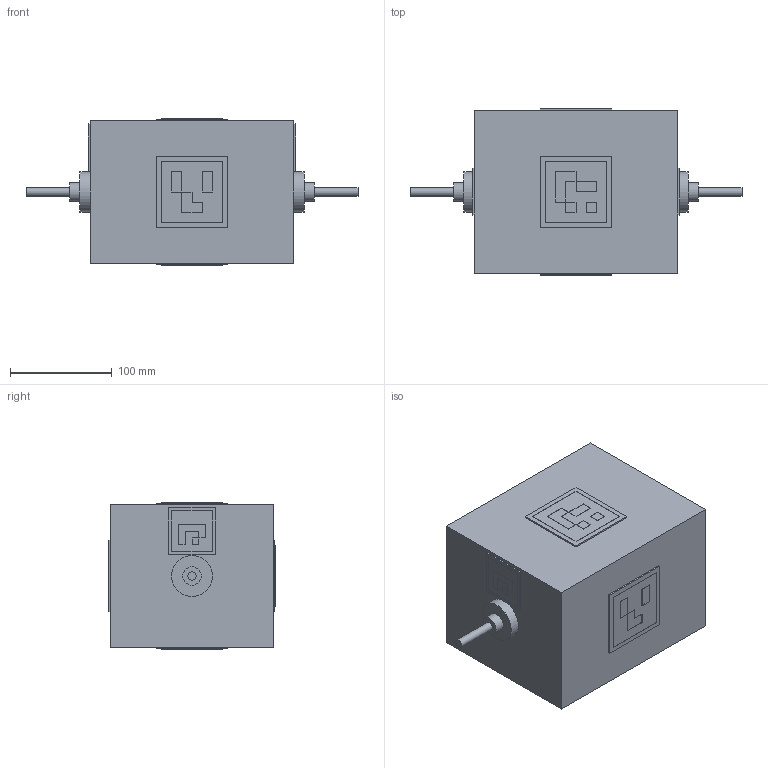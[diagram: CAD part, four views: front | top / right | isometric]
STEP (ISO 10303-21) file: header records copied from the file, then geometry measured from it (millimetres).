
FILE_DESCRIPTION(('Open CASCADE Model'),'2;1');
FILE_NAME('Open CASCADE Shape Model','2026-10-17T21:01:28',('Author'),( 'Open CASCADE'),'Open CASCADE STEP processor 7.9','Open CASCADE 7.9' ,'Unknown');
FILE_SCHEMA(('AUTOMOTIVE_DESIGN { 1 0 10303 214 1 1 1 1 }'));
Length unit declared in the file: millimetre
Products named in the file (22): TARGET_BOX; hull_1100_aluminum_1.5mm; roll_hub_px_printed; roll_hub_px_screws_M4; roll_pin_px_316; roll_hub_nx_printed; roll_hub_nx_screws_M4; roll_pin_nx_316; target_marker_0_plate; target_marker_0_ink; target_marker_1_plate; target_marker_1_ink; target_marker_2_plate; target_marker_2_ink; target_marker_3_plate; target_marker_3_ink; target_marker_4_plate; target_marker_4_ink; target_marker_5_plate; target_marker_5_ink; ballast_brass_ny; ballast_brass_py
Assembly tree (21 placements, depth 2):
  TARGET_BOX
    hull_1100_aluminum_1.5mm
    roll_hub_px_printed
    roll_hub_px_screws_M4
    roll_pin_px_316
    roll_hub_nx_printed
    roll_hub_nx_screws_M4
    roll_pin_nx_316
    target_marker_0_plate
    target_marker_0_ink
    target_marker_1_plate
    target_marker_1_ink
    target_marker_2_plate
    target_marker_2_ink
    target_marker_3_plate
    target_marker_3_ink
    target_marker_4_plate
    target_marker_4_ink
    target_marker_5_plate
    target_marker_5_ink
    ballast_brass_ny
    ballast_brass_py
Bounding box: 326 x 163.5 x 143.5 mm (x, y, z)
Volume: 394073.7 mm3; surface area: 458462.6 mm2
Topology: 28 solids, 28 shells, 330 faces, 730 edges, 476 vertices
Faces by surface type: plane 288, cylinder 42
Full cylindrical faces by diameter (mm): 3.3 x8, 4 x8, 4.5 x8, 7 x8, 8 x4, 9 x2, 18 x2, 40 x2
Entity records: 19220 total; most frequent: CARTESIAN_POINT 3142, DIRECTION 2960, LINE 2022, VECTOR 2022, ORIENTED_EDGE 1476, PCURVE 1460, DEFINITIONAL_REPRESENTATION 1460, EDGE_CURVE 730
